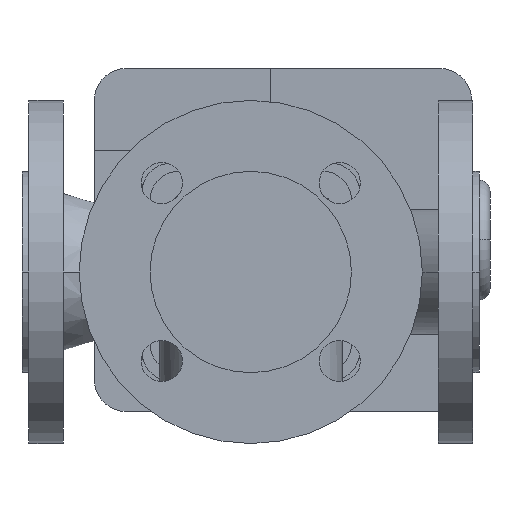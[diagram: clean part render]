
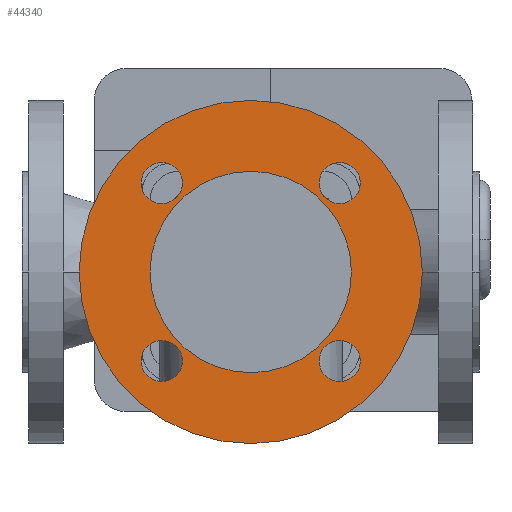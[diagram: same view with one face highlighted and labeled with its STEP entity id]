
A CAD part, front view. The second image highlights one B-rep face of the part: STEP entity #44340.
In plain terms, the highlighted planar face has unit normal (0, -1, 0).
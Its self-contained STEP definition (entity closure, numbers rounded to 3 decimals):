
#7020=CARTESIAN_POINT('',(56.,-87.,0.));
#7030=VERTEX_POINT('',#7020);
#7210=CARTESIAN_POINT('',(144.,-87.,0.));
#7220=VERTEX_POINT('',#7210);
#7250=CARTESIAN_POINT('',(100.,-87.,0.));
#7260=DIRECTION('',(0.,-1.,0.));
#7270=DIRECTION('',(1.,0.,0.));
#7280=AXIS2_PLACEMENT_3D('',#7250,#7260,#7270);
#7290=CIRCLE('',#7280,44.);
#7300=EDGE_CURVE('',#7030,#7220,#7290,.T.);
#7910=CARTESIAN_POINT('',(25.,-87.,0.));
#7920=VERTEX_POINT('',#7910);
#8080=CARTESIAN_POINT('',(175.,-87.,0.));
#8090=VERTEX_POINT('',#8080);
#8120=CARTESIAN_POINT('',(100.,-87.,0.));
#8130=DIRECTION('',(0.,1.,0.));
#8140=DIRECTION('',(1.,0.,0.));
#8150=AXIS2_PLACEMENT_3D('',#8120,#8130,#8140);
#8160=CIRCLE('',#8150,75.);
#8170=EDGE_CURVE('',#7920,#8090,#8160,.T.);
#8330=CARTESIAN_POINT('',(129.891,-87.,-38.891));
#8340=VERTEX_POINT('',#8330);
#8500=CARTESIAN_POINT('',(147.891,-87.,-38.891));
#8510=VERTEX_POINT('',#8500);
#8540=CARTESIAN_POINT('',(138.891,-87.,-38.891));
#8550=DIRECTION('',(0.,1.,0.));
#8560=DIRECTION('',(1.,0.,0.));
#8570=AXIS2_PLACEMENT_3D('',#8540,#8550,#8560);
#8580=CIRCLE('',#8570,9.);
#8590=EDGE_CURVE('',#8510,#8340,#8580,.T.);
#8750=CARTESIAN_POINT('',(129.891,-87.,38.891));
#8760=VERTEX_POINT('',#8750);
#8790=CARTESIAN_POINT('',(138.891,-87.,38.891));
#8800=DIRECTION('',(0.,1.,0.));
#8810=DIRECTION('',(1.,0.,0.));
#8820=AXIS2_PLACEMENT_3D('',#8790,#8800,#8810);
#8830=CIRCLE('',#8820,9.);
#8840=CARTESIAN_POINT('',(147.891,-87.,38.891));
#8850=VERTEX_POINT('',#8840);
#8860=EDGE_CURVE('',#8760,#8850,#8830,.T.);
#9170=CARTESIAN_POINT('',(70.109,-87.,-38.891));
#9180=VERTEX_POINT('',#9170);
#9210=CARTESIAN_POINT('',(61.109,-87.,-38.891));
#9220=DIRECTION('',(0.,1.,0.));
#9230=DIRECTION('',(1.,0.,0.));
#9240=AXIS2_PLACEMENT_3D('',#9210,#9220,#9230);
#9250=CIRCLE('',#9240,9.);
#9260=CARTESIAN_POINT('',(52.109,-87.,-38.891));
#9270=VERTEX_POINT('',#9260);
#9280=EDGE_CURVE('',#9180,#9270,#9250,.T.);
#9590=CARTESIAN_POINT('',(70.109,-87.,38.891));
#9600=VERTEX_POINT('',#9590);
#9630=CARTESIAN_POINT('',(61.109,-87.,38.891));
#9640=DIRECTION('',(0.,1.,0.));
#9650=DIRECTION('',(1.,0.,0.));
#9660=AXIS2_PLACEMENT_3D('',#9630,#9640,#9650);
#9670=CIRCLE('',#9660,9.);
#9680=CARTESIAN_POINT('',(52.109,-87.,38.891));
#9690=VERTEX_POINT('',#9680);
#9700=EDGE_CURVE('',#9600,#9690,#9670,.T.);
#43990=CARTESIAN_POINT('',(100.,-87.,0.));
#44000=DIRECTION('',(0.,1.,0.));
#44010=DIRECTION('',(0.,0.,1.));
#44020=AXIS2_PLACEMENT_3D('',#43990,#44000,#44010);
#44030=PLANE('',#44020);
#44040=EDGE_CURVE('',#9690,#9600,#9670,.T.);
#44050=ORIENTED_EDGE('',*,*,#44040,.T.);
#44060=ORIENTED_EDGE('',*,*,#9700,.T.);
#44070=EDGE_LOOP('',(#44060,#44050));
#44080=FACE_BOUND('',#44070,.T.);
#44090=ORIENTED_EDGE('',*,*,#9280,.T.);
#44100=EDGE_CURVE('',#9270,#9180,#9250,.T.);
#44110=ORIENTED_EDGE('',*,*,#44100,.T.);
#44120=EDGE_LOOP('',(#44110,#44090));
#44130=FACE_BOUND('',#44120,.T.);
#44140=ORIENTED_EDGE('',*,*,#8860,.T.);
#44150=EDGE_CURVE('',#8850,#8760,#8830,.T.);
#44160=ORIENTED_EDGE('',*,*,#44150,.T.);
#44170=EDGE_LOOP('',(#44160,#44140));
#44180=FACE_BOUND('',#44170,.T.);
#44190=EDGE_CURVE('',#8340,#8510,#8580,.T.);
#44200=ORIENTED_EDGE('',*,*,#44190,.T.);
#44210=ORIENTED_EDGE('',*,*,#8590,.T.);
#44220=EDGE_LOOP('',(#44210,#44200));
#44230=FACE_BOUND('',#44220,.T.);
#44240=EDGE_CURVE('',#8090,#7920,#8160,.T.);
#44250=ORIENTED_EDGE('',*,*,#44240,.F.);
#44260=ORIENTED_EDGE('',*,*,#8170,.F.);
#44270=EDGE_LOOP('',(#44260,#44250));
#44280=FACE_OUTER_BOUND('',#44270,.T.);
#44290=EDGE_CURVE('',#7220,#7030,#7290,.T.);
#44300=ORIENTED_EDGE('',*,*,#44290,.F.);
#44310=ORIENTED_EDGE('',*,*,#7300,.F.);
#44320=EDGE_LOOP('',(#44310,#44300));
#44330=FACE_BOUND('',#44320,.T.);
#44340=ADVANCED_FACE('',(#44080,#44130,#44180,#44230,#44280,#44330),
#44030,.F.);
